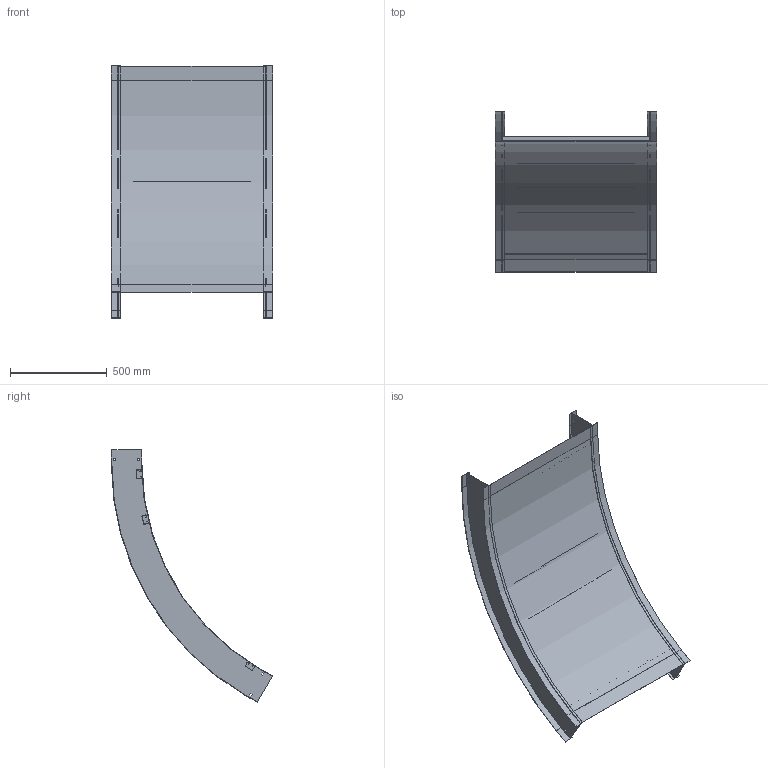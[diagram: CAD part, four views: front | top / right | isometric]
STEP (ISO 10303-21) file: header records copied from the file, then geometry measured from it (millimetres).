
FILE_DESCRIPTION((''),'2;1');
FILE_NAME('AHF630SVO6048_ASM','2010-02-02T',('erouzier'),(''),'PRO/ENGINEER BY PARAMETRIC TECHNOLOGY CORPORATION, 2008510','PRO/ENGINEER BY PARAMETRIC TECHNOLOGY CORPORATION, 2008510','');
FILE_SCHEMA(('CONFIG_CONTROL_DESIGN'));
Length unit declared in the file: inch
Products named in the file (5): CDS001658_6_60_48; CDS002159L30; CDS002159L24-P; ED04591_60_48_30; AHF630SVO6048_ASM
Assembly tree (9 placements, depth 2):
  AHF630SVO6048_ASM
    CDS001658_6_60_48  x2
    CDS002159L30  x3
    CDS002159L24-P  x3
    ED04591_60_48_30
Bounding box: 836.42 x 833.58 x 1306.98 mm (x, y, z)
Volume: 3606076.2 mm3; surface area: 4668880.4 mm2
Topology: 9 solids, 9 shells, 806 faces, 2356 edges, 1568 vertices
Faces by surface type: plane 462, cylinder 344
Entity records: 9903 total; most frequent: CARTESIAN_POINT 1710, DIRECTION 1692, ORIENTED_EDGE 1688, EDGE_CURVE 844, VECTOR 608, LINE 608, VERTEX_POINT 560, AXIS2_PLACEMENT_3D 542
